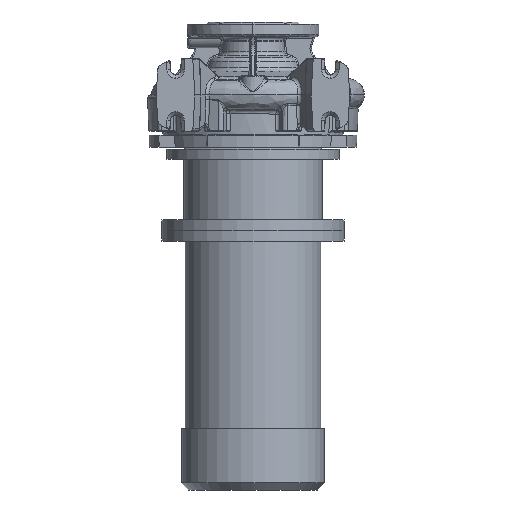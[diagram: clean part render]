
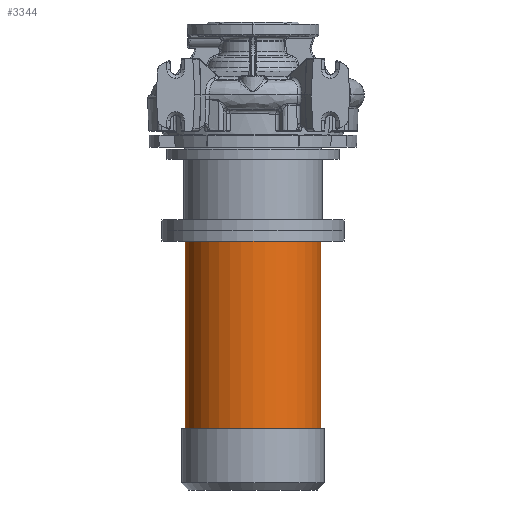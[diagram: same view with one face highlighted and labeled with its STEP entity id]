
A CAD part, front view. The second image highlights one B-rep face of the part: STEP entity #3344.
In plain terms, the highlighted cylindrical face has radius 93 mm (diameter 186 mm), a partial arc.
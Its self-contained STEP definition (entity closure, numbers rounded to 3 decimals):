
#342 = VERTEX_POINT ( 'NONE', #3783 ) ;
#661 = VERTEX_POINT ( 'NONE', #6408 ) ;
#943 = VERTEX_POINT ( 'NONE', #20283 ) ;
#3344 = ADVANCED_FACE ( 'NONE', ( #41393 ), #12508, .T. ) ;
#3783 = CARTESIAN_POINT ( 'NONE',  ( 93., 0., -457.3 ) ) ;
#6408 = CARTESIAN_POINT ( 'NONE',  ( -93., 0., -457.3 ) ) ;
#6804 = CARTESIAN_POINT ( 'NONE',  ( -93., 0., -200.3 ) ) ;
#10792 = CARTESIAN_POINT ( 'NONE',  ( -93., 0., -541.3 ) ) ;
#12508 = CYLINDRICAL_SURFACE ( 'NONE', #22578, 93. ) ;
#14686 = EDGE_LOOP ( 'NONE', ( #54423, #54746, #59405, #16855 ) ) ;
#16855 = ORIENTED_EDGE ( 'NONE', *, *, #18108, .F. ) ;
#18108 = EDGE_CURVE ( 'NONE', #342, #661, #40556, .T. ) ;
#18169 = DIRECTION ( 'NONE',  ( 0., 0., -1. ) ) ;
#20283 = CARTESIAN_POINT ( 'NONE',  ( 93., 0., -200.3 ) ) ;
#22578 = AXIS2_PLACEMENT_3D ( 'NONE', #41525, #41821, #48103 ) ;
#23725 = DIRECTION ( 'NONE',  ( 0., 0., -1. ) ) ;
#23822 = AXIS2_PLACEMENT_3D ( 'NONE', #73864, #87301, #59063 ) ;
#37206 = EDGE_CURVE ( 'NONE', #70153, #661, #80964, .T. ) ;
#40556 = CIRCLE ( 'NONE', #60794, 93. ) ;
#41393 = FACE_OUTER_BOUND ( 'NONE', #14686, .T. ) ;
#41525 = CARTESIAN_POINT ( 'NONE',  ( 0., 0., -541.3 ) ) ;
#41821 = DIRECTION ( 'NONE',  ( 0., 0., -1. ) ) ;
#43549 = EDGE_CURVE ( 'NONE', #943, #342, #50489, .T. ) ;
#48103 = DIRECTION ( 'NONE',  ( -1., 0., 0. ) ) ;
#50489 = LINE ( 'NONE', #57813, #77113 ) ;
#54423 = ORIENTED_EDGE ( 'NONE', *, *, #43549, .F. ) ;
#54746 = ORIENTED_EDGE ( 'NONE', *, *, #84324, .T. ) ;
#57813 = CARTESIAN_POINT ( 'NONE',  ( 93., 0., -541.3 ) ) ;
#59063 = DIRECTION ( 'NONE',  ( -1., 0., 0. ) ) ;
#59405 = ORIENTED_EDGE ( 'NONE', *, *, #37206, .T. ) ;
#60794 = AXIS2_PLACEMENT_3D ( 'NONE', #61535, #81484, #75173 ) ;
#61535 = CARTESIAN_POINT ( 'NONE',  ( 0., 0., -457.3 ) ) ;
#62899 = VECTOR ( 'NONE', #18169, 1000. ) ;
#70153 = VERTEX_POINT ( 'NONE', #6804 ) ;
#73864 = CARTESIAN_POINT ( 'NONE',  ( 0., 0., -200.3 ) ) ;
#74941 = CIRCLE ( 'NONE', #23822, 93. ) ;
#75173 = DIRECTION ( 'NONE',  ( -1., 0., 0. ) ) ;
#77113 = VECTOR ( 'NONE', #23725, 1000. ) ;
#80964 = LINE ( 'NONE', #10792, #62899 ) ;
#81484 = DIRECTION ( 'NONE',  ( 0., 0., -1. ) ) ;
#84324 = EDGE_CURVE ( 'NONE', #943, #70153, #74941, .T. ) ;
#87301 = DIRECTION ( 'NONE',  ( 0., 0., -1. ) ) ;
